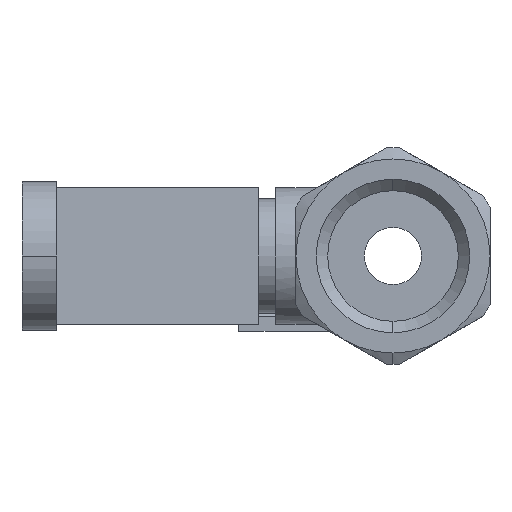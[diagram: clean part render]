
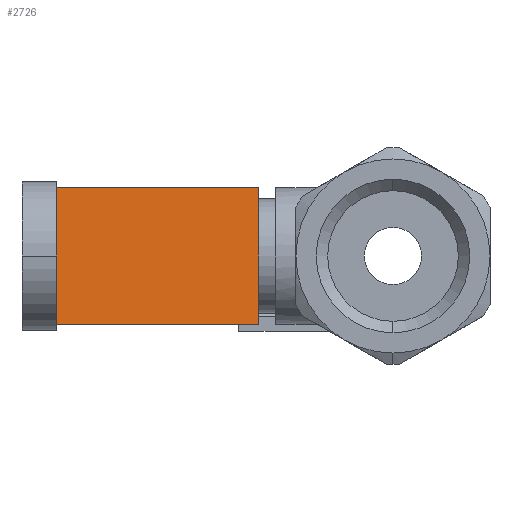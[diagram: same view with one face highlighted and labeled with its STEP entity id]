
A CAD part, left-side view. The second image highlights one B-rep face of the part: STEP entity #2726.
In plain terms, the highlighted planar face has unit normal (-0.707, -0.707, 0).
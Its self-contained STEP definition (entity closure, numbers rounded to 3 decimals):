
#11 = CARTESIAN_POINT ( 'NONE',  ( -28.25, 30., 6. ) ) ;
#60 = EDGE_CURVE ( 'NONE', #257, #3593, #678, .T. ) ;
#257 = VERTEX_POINT ( 'NONE', #11 ) ;
#420 = DIRECTION ( 'NONE',  ( -0.707, 0.707, 0. ) ) ;
#448 = ORIENTED_EDGE ( 'NONE', *, *, #2927, .F. ) ;
#596 = DIRECTION ( 'NONE',  ( 0., 0., -1. ) ) ;
#676 = FACE_OUTER_BOUND ( 'NONE', #3910, .T. ) ;
#678 = LINE ( 'NONE', #2660, #1397 ) ;
#709 = CARTESIAN_POINT ( 'NONE',  ( -10., 11.75, -6. ) ) ;
#1125 = DIRECTION ( 'NONE',  ( 0., 0., -1. ) ) ;
#1195 = LINE ( 'NONE', #3316, #1907 ) ;
#1210 = VERTEX_POINT ( 'NONE', #709 ) ;
#1304 = DIRECTION ( 'NONE',  ( 0.707, -0.707, 0. ) ) ;
#1397 = VECTOR ( 'NONE', #2509, 1000. ) ;
#1530 = LINE ( 'NONE', #3226, #3042 ) ;
#1578 = LINE ( 'NONE', #2800, #2292 ) ;
#1633 = PLANE ( 'NONE',  #2159 ) ;
#1754 = ORIENTED_EDGE ( 'NONE', *, *, #1919, .T. ) ;
#1907 = VECTOR ( 'NONE', #596, 1000. ) ;
#1919 = EDGE_CURVE ( 'NONE', #257, #3061, #1195, .T. ) ;
#2159 = AXIS2_PLACEMENT_3D ( 'NONE', #3759, #2239, #420 ) ;
#2239 = DIRECTION ( 'NONE',  ( 0.707, 0.707, 0. ) ) ;
#2292 = VECTOR ( 'NONE', #1304, 1000. ) ;
#2509 = DIRECTION ( 'NONE',  ( 0.707, -0.707, 0. ) ) ;
#2660 = CARTESIAN_POINT ( 'NONE',  ( -28.25, 30., 6. ) ) ;
#2675 = EDGE_CURVE ( 'NONE', #3061, #1210, #1578, .T. ) ;
#2726 = ADVANCED_FACE ( 'NONE', ( #676 ), #1633, .F. ) ;
#2800 = CARTESIAN_POINT ( 'NONE',  ( -28.25, 30., -6. ) ) ;
#2927 = EDGE_CURVE ( 'NONE', #3593, #1210, #1530, .T. ) ;
#3042 = VECTOR ( 'NONE', #1125, 1000. ) ;
#3061 = VERTEX_POINT ( 'NONE', #3622 ) ;
#3226 = CARTESIAN_POINT ( 'NONE',  ( -10., 11.75, 6. ) ) ;
#3316 = CARTESIAN_POINT ( 'NONE',  ( -28.25, 30., 6. ) ) ;
#3403 = ORIENTED_EDGE ( 'NONE', *, *, #60, .F. ) ;
#3551 = ORIENTED_EDGE ( 'NONE', *, *, #2675, .T. ) ;
#3593 = VERTEX_POINT ( 'NONE', #3613 ) ;
#3613 = CARTESIAN_POINT ( 'NONE',  ( -10., 11.75, 6. ) ) ;
#3622 = CARTESIAN_POINT ( 'NONE',  ( -28.25, 30., -6. ) ) ;
#3759 = CARTESIAN_POINT ( 'NONE',  ( -28.25, 30., 6. ) ) ;
#3910 = EDGE_LOOP ( 'NONE', ( #3551, #448, #3403, #1754 ) ) ;
